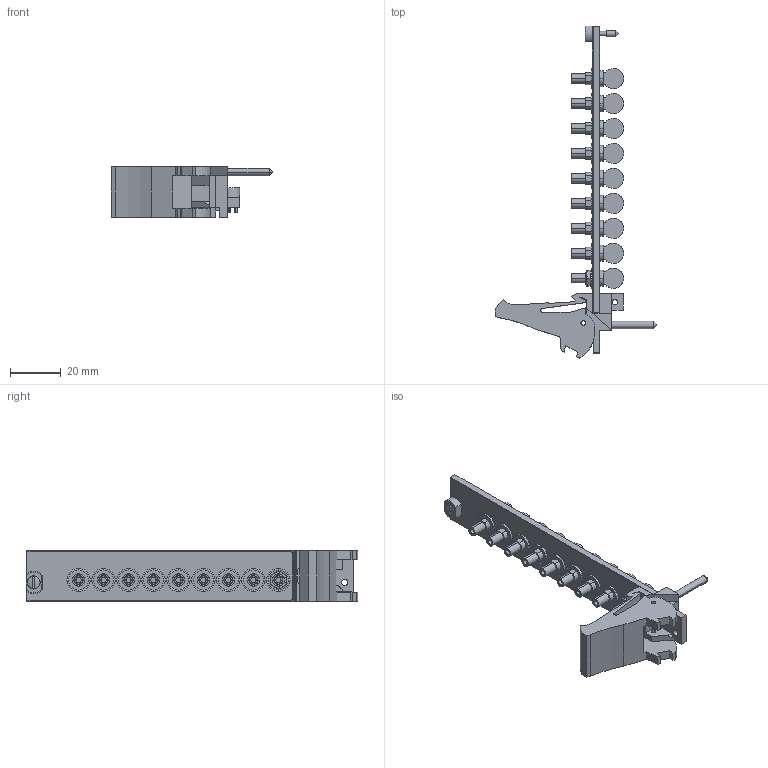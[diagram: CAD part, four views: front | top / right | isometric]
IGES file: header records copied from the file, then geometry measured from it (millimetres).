
Start section:  PTC IGES file: cu_pxi_4472.igs
Global section: file name: cu_pxi_4472.igs; native system: Pro/ENGINEER by Parametric Technology Corporation; preprocessor: 2006300; author: chrisj; organization: Unknown; date: 20070912.152554; units: inch
Bounding box: 63.53 x 130.62 x 20.02 mm (x, y, z)
Surface area: 16952.9 mm2 (no closed solid volume)
Topology: 0 solids, 0 shells, 718 faces, 3598 edges, 3596 vertices
Faces by surface type: bspline 475, revolution 243
